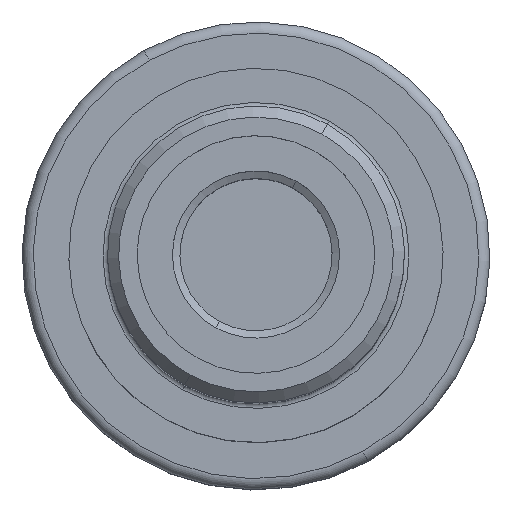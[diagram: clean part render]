
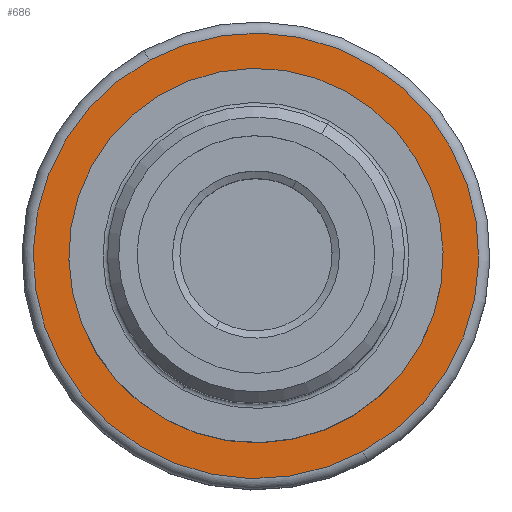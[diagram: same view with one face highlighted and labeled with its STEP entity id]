
A CAD part, top view. The second image highlights one B-rep face of the part: STEP entity #686.
In plain terms, the highlighted planar face has unit normal (0, 0, 1).
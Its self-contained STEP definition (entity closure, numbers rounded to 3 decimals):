
#630=AXIS2_PLACEMENT_3D('Circle Axis2P3D',#628,#629,$) ;
#649=AXIS2_PLACEMENT_3D('Circle Axis2P3D',#647,#648,$) ;
#662=AXIS2_PLACEMENT_3D('Plane Axis2P3D',#659,#660,#661) ;
#666=AXIS2_PLACEMENT_3D('Circle Axis2P3D',#664,#665,$) ;
#675=AXIS2_PLACEMENT_3D('Circle Axis2P3D',#673,#674,$) ;
#625=CARTESIAN_POINT('Vertex',(-11.986,-21.94,-104.7)) ;
#628=CARTESIAN_POINT('Axis2P3D Location',(0.,0.,-104.7)) ;
#632=CARTESIAN_POINT('Vertex',(11.986,21.94,-104.7)) ;
#647=CARTESIAN_POINT('Axis2P3D Location',(0.,0.,-104.7)) ;
#659=CARTESIAN_POINT('Axis2P3D Location',(0.,0.,-104.7)) ;
#664=CARTESIAN_POINT('Axis2P3D Location',(0.,0.,-104.7)) ;
#668=CARTESIAN_POINT('Vertex',(14.383,-26.327,-104.7)) ;
#670=CARTESIAN_POINT('Vertex',(-14.383,26.327,-104.7)) ;
#673=CARTESIAN_POINT('Axis2P3D Location',(0.,0.,-104.7)) ;
#629=DIRECTION('Axis2P3D Direction',(0.,0.,-1.)) ;
#648=DIRECTION('Axis2P3D Direction',(0.,0.,-1.)) ;
#660=DIRECTION('Axis2P3D Direction',(0.,0.,1.)) ;
#661=DIRECTION('Axis2P3D XDirection',(1.,0.,0.)) ;
#665=DIRECTION('Axis2P3D Direction',(0.,0.,1.)) ;
#674=DIRECTION('Axis2P3D Direction',(0.,0.,1.)) ;
#679=ORIENTED_EDGE('',*,*,#672,.T.) ;
#680=ORIENTED_EDGE('',*,*,#677,.T.) ;
#683=ORIENTED_EDGE('',*,*,#634,.F.) ;
#684=ORIENTED_EDGE('',*,*,#651,.F.) ;
#685=FACE_BOUND('',#682,.T.) ;
#686=ADVANCED_FACE('NOCUT',(#681,#685),#663,.T.) ;
#631=CIRCLE('generated circle',#630,25.) ;
#650=CIRCLE('generated circle',#649,25.) ;
#667=CIRCLE('generated circle',#666,30.) ;
#676=CIRCLE('generated circle',#675,30.) ;
#634=EDGE_CURVE('',#626,#633,#631,.F.) ;
#651=EDGE_CURVE('',#633,#626,#650,.F.) ;
#672=EDGE_CURVE('',#669,#671,#667,.T.) ;
#677=EDGE_CURVE('',#671,#669,#676,.T.) ;
#678=EDGE_LOOP('',(#679,#680)) ;
#682=EDGE_LOOP('',(#683,#684)) ;
#681=FACE_OUTER_BOUND('',#678,.T.) ;
#663=PLANE('',#662) ;
#626=VERTEX_POINT('',#625) ;
#633=VERTEX_POINT('',#632) ;
#669=VERTEX_POINT('',#668) ;
#671=VERTEX_POINT('',#670) ;
